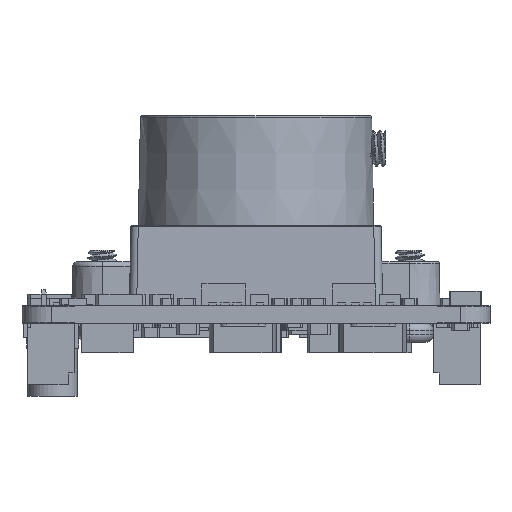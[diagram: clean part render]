
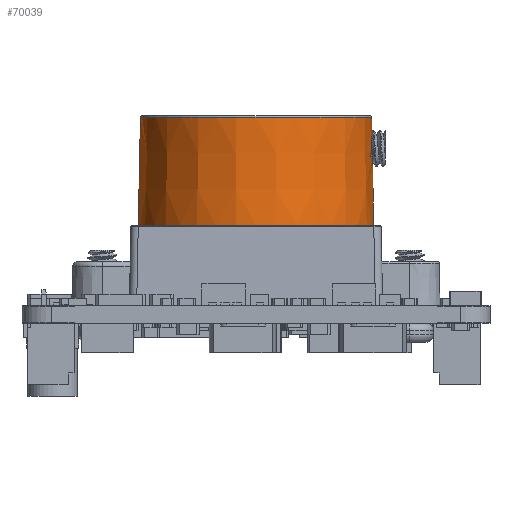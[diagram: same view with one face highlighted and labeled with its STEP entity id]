
A CAD part, front view. The second image highlights one B-rep face of the part: STEP entity #70039.
In plain terms, the highlighted conical face has half-angle 1.146 degrees and reference radius 7.976 mm.
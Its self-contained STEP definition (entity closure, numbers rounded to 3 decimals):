
#69410 = VERTEX_POINT('',#69411);
#69411 = CARTESIAN_POINT('',(8.05,0.,7.5));
#69412 = VERTEX_POINT('',#69413);
#69413 = CARTESIAN_POINT('',(-8.05,0.,7.5));
#69420 = EDGE_CURVE('',#69412,#69410,#69421,.T.);
#69421 = CIRCLE('',#69422,8.05);
#69422 = AXIS2_PLACEMENT_3D('',#69423,#69424,#69425);
#69423 = CARTESIAN_POINT('',(0.,0.,7.5));
#69424 = DIRECTION('',(0.,0.,1.));
#69425 = DIRECTION('',(-1.,0.,0.));
#69456 = VERTEX_POINT('',#69457);
#69457 = CARTESIAN_POINT('',(7.967,0.,11.655));
#69466 = EDGE_CURVE('',#69456,#69410,#69467,.T.);
#69467 = LINE('',#69468,#69469);
#69468 = CARTESIAN_POINT('',(7.967,0.,11.655));
#69469 = VECTOR('',#69470,1.);
#69470 = DIRECTION('',(0.02,0.,-1.));
#69473 = EDGE_CURVE('',#69474,#69412,#69476,.T.);
#69474 = VERTEX_POINT('',#69475);
#69475 = CARTESIAN_POINT('',(-7.902,0.,14.902));
#69476 = LINE('',#69477,#69478);
#69477 = CARTESIAN_POINT('',(-7.902,0.,
    14.902));
#69478 = VECTOR('',#69479,1.);
#69479 = DIRECTION('',(-0.02,0.,
    -1.));
#69482 = VERTEX_POINT('',#69483);
#69483 = CARTESIAN_POINT('',(7.902,0.,14.902));
#69490 = EDGE_CURVE('',#69482,#69491,#69493,.T.);
#69491 = VERTEX_POINT('',#69492);
#69492 = CARTESIAN_POINT('',(7.925,0.,13.775));
#69493 = LINE('',#69494,#69495);
#69494 = CARTESIAN_POINT('',(7.902,0.,
    14.902));
#69495 = VECTOR('',#69496,1.);
#69496 = DIRECTION('',(0.02,0.,
    -1.));
#69848 = EDGE_CURVE('',#69456,#69849,#69851,.T.);
#69849 = VERTEX_POINT('',#69850);
#69850 = CARTESIAN_POINT('',(7.877,-0.996,
    12.993));
#69851 = B_SPLINE_CURVE_WITH_KNOTS('',3,(#69852,#69853,#69854,#69855,
    #69856,#69857,#69858,#69859,#69860,#69861,#69862,#69863),
  .UNSPECIFIED.,.F.,.F.,(4,1,1,1,1,1,1,1,1,4),(0.,0.111,
    0.222,0.333,0.444,0.556,
    0.667,0.778,0.889,1.),.UNSPECIFIED.);
#69852 = CARTESIAN_POINT('',(7.967,0.,11.655));
#69853 = CARTESIAN_POINT('',(7.967,-0.1,
    11.666));
#69854 = CARTESIAN_POINT('',(7.962,-0.288,
    11.707));
#69855 = CARTESIAN_POINT('',(7.946,-0.539,
    11.819));
#69856 = CARTESIAN_POINT('',(7.927,-0.735,
    11.962));
#69857 = CARTESIAN_POINT('',(7.909,-0.88,
    12.118));
#69858 = CARTESIAN_POINT('',(7.894,-0.983,
    12.285));
#69859 = CARTESIAN_POINT('',(7.882,-1.045,12.455
    ));
#69860 = CARTESIAN_POINT('',(7.875,-1.072,
    12.638));
#69861 = CARTESIAN_POINT('',(7.873,-1.057,
    12.821));
#69862 = CARTESIAN_POINT('',(7.875,-1.021,
    12.937));
#69863 = CARTESIAN_POINT('',(7.877,-0.996,
    12.993));
#70039 = ADVANCED_FACE('',(#70040),#70067,.T.);
#70040 = FACE_BOUND('',#70041,.T.);
#70041 = EDGE_LOOP('',(#70042,#70055,#70056,#70063,#70064,#70065,#70066)
  );
#70042 = ORIENTED_EDGE('',*,*,#70043,.T.);
#70043 = EDGE_CURVE('',#69849,#69491,#70044,.T.);
#70044 = B_SPLINE_CURVE_WITH_KNOTS('',3,(#70045,#70046,#70047,#70048,
    #70049,#70050,#70051,#70052,#70053,#70054),.UNSPECIFIED.,.F.,.F.,(4,
    1,1,1,1,1,1,4),(0.,0.143,0.286,0.429,
    0.571,0.714,0.857,1.),.UNSPECIFIED.);
#70045 = CARTESIAN_POINT('',(7.877,-0.996,
    12.993));
#70046 = CARTESIAN_POINT('',(7.878,-0.98,
    13.056));
#70047 = CARTESIAN_POINT('',(7.881,-0.937,
    13.18));
#70048 = CARTESIAN_POINT('',(7.889,-0.839,13.349
    ));
#70049 = CARTESIAN_POINT('',(7.899,-0.711,
    13.497));
#70050 = CARTESIAN_POINT('',(7.909,-0.557,
    13.618));
#70051 = CARTESIAN_POINT('',(7.917,-0.383,
    13.708));
#70052 = CARTESIAN_POINT('',(7.923,-0.195,
    13.763));
#70053 = CARTESIAN_POINT('',(7.925,-0.065,13.775));
#70054 = CARTESIAN_POINT('',(7.925,0.,13.775));
#70055 = ORIENTED_EDGE('',*,*,#69490,.F.);
#70056 = ORIENTED_EDGE('',*,*,#70057,.T.);
#70057 = EDGE_CURVE('',#69482,#69474,#70058,.T.);
#70058 = CIRCLE('',#70059,7.902);
#70059 = AXIS2_PLACEMENT_3D('',#70060,#70061,#70062);
#70060 = CARTESIAN_POINT('',(0.,0.,14.902));
#70061 = DIRECTION('',(0.,0.,-1.));
#70062 = DIRECTION('',(1.,0.,0.));
#70063 = ORIENTED_EDGE('',*,*,#69473,.T.);
#70064 = ORIENTED_EDGE('',*,*,#69420,.T.);
#70065 = ORIENTED_EDGE('',*,*,#69466,.F.);
#70066 = ORIENTED_EDGE('',*,*,#69848,.T.);
#70067 = CONICAL_SURFACE('',#70068,7.976,0.02);
#70068 = AXIS2_PLACEMENT_3D('',#70069,#70070,#70071);
#70069 = CARTESIAN_POINT('',(0.,0.,11.201));
#70070 = DIRECTION('',(0.,0.,-1.));
#70071 = DIRECTION('',(1.,0.,0.));
